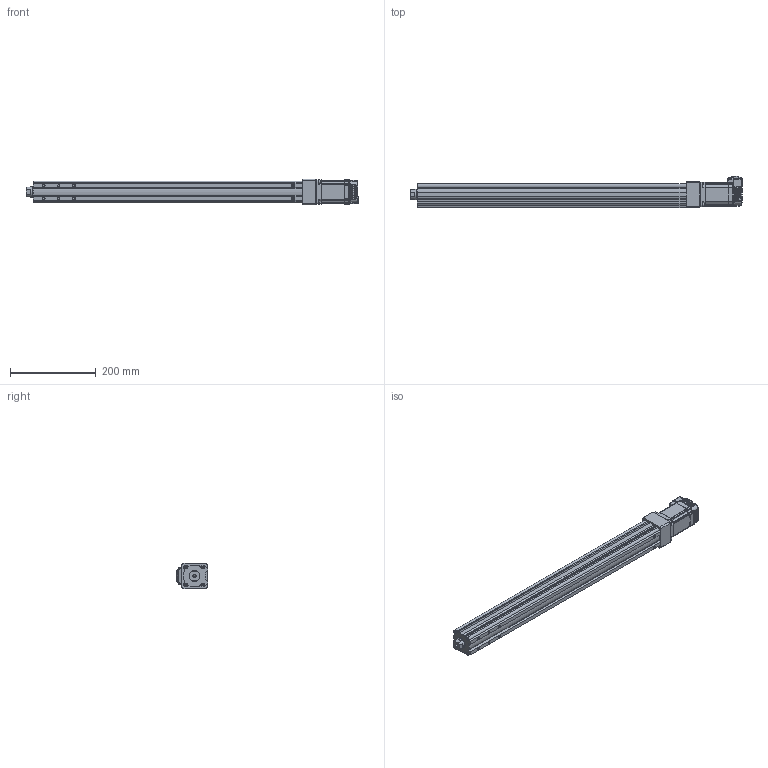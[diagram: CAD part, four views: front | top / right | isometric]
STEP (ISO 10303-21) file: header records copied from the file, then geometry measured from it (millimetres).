
FILE_DESCRIPTION (( 'STEP AP214' ), '1' );
FILE_NAME ('LEY3(+)-32DNM1□-500-23L.STEP', '2023-04-06T07:44:01', ( '' ), ( '' ), 'SwSTEP 2.0', 'SolidWorks 2019', '' );
FILE_SCHEMA (( 'AUTOMOTIVE_DESIGN' ));
Length unit declared in the file: millimetre
Products named in the file (5): LEY3(+)-32NM1?_BODY_500; CM3(+)-23L50A_2-M4_01; LEY3(+)-32DNM1_MOTOR Flange; LEY3(+)-32DNM1□-500-23L; LEY3(+)-32NM1?_ROD_500
Assembly tree (4 placements, depth 2):
  LEY3(+)-32DNM1□-500-23L
    LEY3(+)-32NM1?_BODY_500
    LEY3(+)-32NM1?_ROD_500
    LEY3(+)-32DNM1_MOTOR Flange
    CM3(+)-23L50A_2-M4_01
Bounding box: 772.8 x 73.75 x 60 mm (x, y, z)
Volume: 1824907.3 mm3; surface area: 315443.1 mm2
Topology: 4 solids, 13 shells, 1439 faces, 3713 edges, 2295 vertices
Faces by surface type: plane 668, cylinder 432, bspline 133, cone 101, torus 58, sphere 47
Full cylindrical faces by diameter (mm): 2.5 x4, 3 x2, 3.2 x4, 4.2 x1, 4.5 x7, 4.9 x10, 5 x1, 6.2 x4, 6.35 x1, 6.8 x1, 7 x2, 8 x2, 24.8 x1, 25 x2, 32 x2, 38.1 x1
Entity records: 49056 total; most frequent: CARTESIAN_POINT 12638, ORIENTED_EDGE 7102, DIRECTION 6555, EDGE_CURVE 3551, VERTEX_POINT 2267, AXIS2_PLACEMENT_3D 2230, VECTOR 2095, LINE 2095
